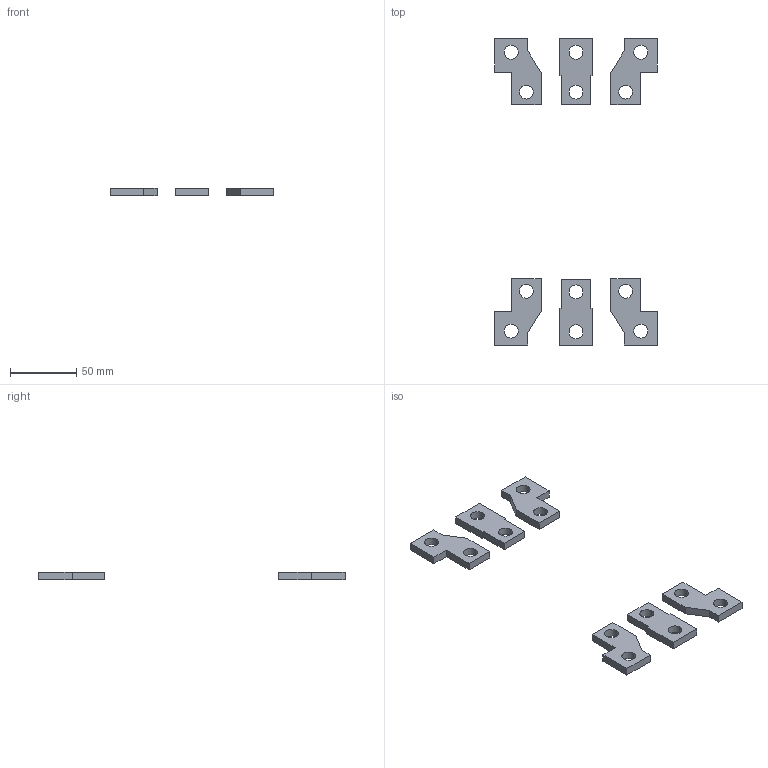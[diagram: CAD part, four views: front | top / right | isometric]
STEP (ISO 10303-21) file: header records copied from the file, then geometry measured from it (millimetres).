
FILE_DESCRIPTION (( 'STEP AP214' ), '1' );
FILE_NAME ('Êîìïëåêò âûâîäîâ ðàñøèðèòåëüíûõ ÂÀ04-36ÂÀ51-35ÂÀ57-35-ÓÕË3 16-160 À.STEP', '2023-07-24T12:39:55', ( '' ), ( '' ), 'SwSTEP 2.0', 'SolidWorks 2018', '' );
FILE_SCHEMA (( 'AUTOMOTIVE_DESIGN' ));
Length unit declared in the file: millimetre
Products named in the file (1): Êîìïëåêò âûâîäîâ ðàñøèðèòåëüíûõ ÂÀ04-36ÂÀ51-35ÂÀ57-35-ÓÕË3 16-160 À
Bounding box: 122.68 x 231.55 x 6 mm (x, y, z)
Volume: 38129.5 mm3; surface area: 20793.7 mm2
Topology: 6 solids, 6 shells, 84 faces, 216 edges, 144 vertices
Faces by surface type: plane 60, cylinder 24
Entity records: 3599 total; most frequent: CARTESIAN_POINT 445, DIRECTION 434, ORIENTED_EDGE 432, EDGE_CURVE 216, VECTOR 168, LINE 168, VERTEX_POINT 144, AXIS2_PLACEMENT_3D 133
